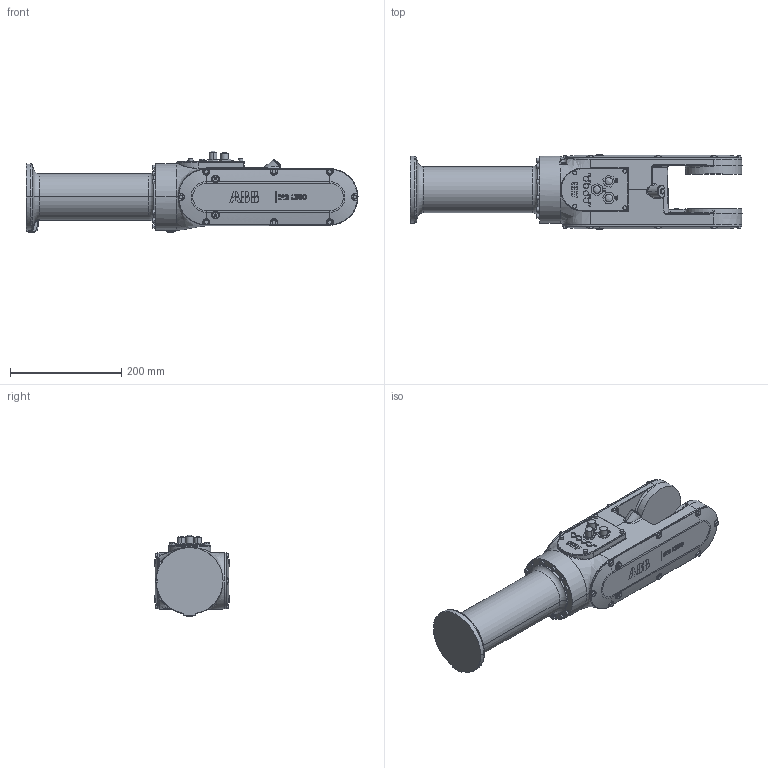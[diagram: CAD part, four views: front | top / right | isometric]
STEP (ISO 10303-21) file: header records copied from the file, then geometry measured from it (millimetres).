
FILE_DESCRIPTION (( 'STEP AP214' ), '1' );
FILE_NAME ('IRB1300 Type A_7&12Kg-1400-IP40IP67CR-BTM_OC_00_link4.STEP', '2026-05-19T12:12:31', ( '' ), ( '' ), 'SwSTEP 2.0', 'SolidWorks 2024', '' );
FILE_SCHEMA (( 'AUTOMOTIVE_DESIGN' ));
Length unit declared in the file: millimetre
Products named in the file (1): IRB1300 Type A_7&12Kg-1400-IP40IP67CR-BTM_OC_00_link4
Bounding box: 596.36 x 134.5 x 145.73 mm (x, y, z)
Volume: 5108864.9 mm3; surface area: 272788.8 mm2
Topology: 1 solids, 3 shells, 1602 faces, 3949 edges, 2479 vertices
Faces by surface type: plane 609, bspline 514, cylinder 282, cone 77, torus 77, sphere 43
Entity records: 75665 total; most frequent: CARTESIAN_POINT 41753, ORIENTED_EDGE 7846, DIRECTION 5411, EDGE_CURVE 3923, VERTEX_POINT 2479, AXIS2_PLACEMENT_3D 1912, EDGE_LOOP 1754, FACE_OUTER_BOUND 1602
